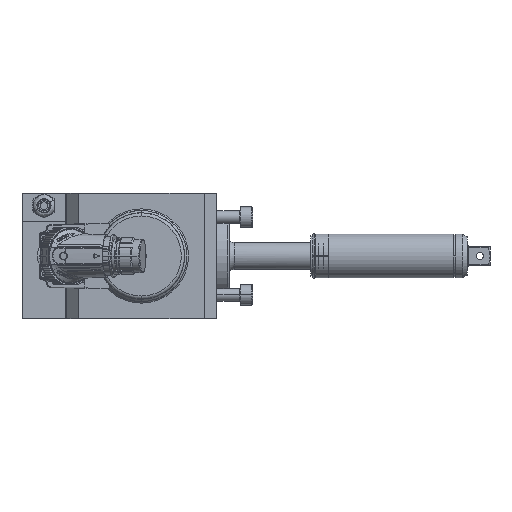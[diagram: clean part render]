
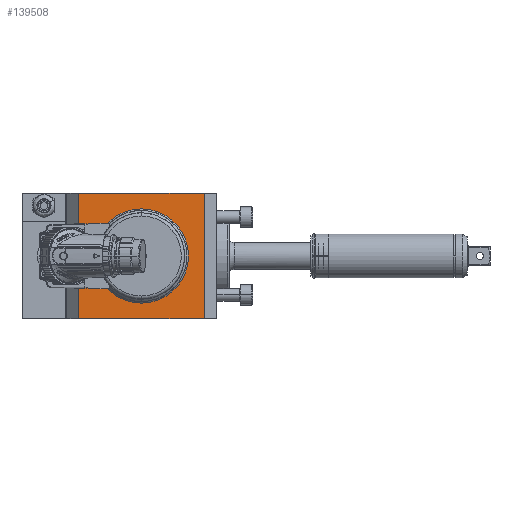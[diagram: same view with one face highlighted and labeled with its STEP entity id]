
A CAD part, left-side view. The second image highlights one B-rep face of the part: STEP entity #139508.
In plain terms, the highlighted planar face has unit normal (-1, 0, 0).
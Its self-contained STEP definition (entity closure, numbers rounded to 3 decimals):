
#2763 = CARTESIAN_POINT ( 'NONE',  ( -73.5, 48., 0. ) ) ;
#2849 = AXIS2_PLACEMENT_3D ( 'NONE', #100180, #50949, #126901 ) ;
#9011 = CARTESIAN_POINT ( 'NONE',  ( -73.5, 88., 40. ) ) ;
#10940 = ORIENTED_EDGE ( 'NONE', *, *, #102774, .F. ) ;
#17818 = CARTESIAN_POINT ( 'NONE',  ( -73.5, 8., 40. ) ) ;
#18180 = EDGE_CURVE ( 'NONE', #144288, #35648, #22976, .T. ) ;
#18308 = CARTESIAN_POINT ( 'NONE',  ( -73.5, 8., 40. ) ) ;
#19458 = DIRECTION ( 'NONE',  ( 0., 0., -1. ) ) ;
#21041 = ORIENTED_EDGE ( 'NONE', *, *, #18180, .F. ) ;
#22976 = LINE ( 'NONE', #126453, #110200 ) ;
#23855 = LINE ( 'NONE', #18308, #25298 ) ;
#25298 = VECTOR ( 'NONE', #120095, 1000. ) ;
#34760 = DIRECTION ( 'NONE',  ( 1., 0., 0. ) ) ;
#35648 = VERTEX_POINT ( 'NONE', #68940 ) ;
#37139 = DIRECTION ( 'NONE',  ( 0., 1., 0. ) ) ;
#38425 = FACE_BOUND ( 'NONE', #161808, .T. ) ;
#40910 = VERTEX_POINT ( 'NONE', #87349 ) ;
#43816 = CIRCLE ( 'NONE', #153104, 30. ) ;
#47451 = ORIENTED_EDGE ( 'NONE', *, *, #131112, .F. ) ;
#48276 = EDGE_CURVE ( 'NONE', #96415, #144288, #106247, .T. ) ;
#50949 = DIRECTION ( 'NONE',  ( -1., 0., 0. ) ) ;
#50972 = VERTEX_POINT ( 'NONE', #90673 ) ;
#51218 = DIRECTION ( 'NONE',  ( 0., 0., 1. ) ) ;
#53069 = EDGE_CURVE ( 'NONE', #68344, #50972, #43816, .T. ) ;
#55883 = CIRCLE ( 'NONE', #66465, 30. ) ;
#57399 = VECTOR ( 'NONE', #19458, 1000. ) ;
#66465 = AXIS2_PLACEMENT_3D ( 'NONE', #144667, #130553, #68683 ) ;
#68344 = VERTEX_POINT ( 'NONE', #145307 ) ;
#68683 = DIRECTION ( 'NONE',  ( 0., 0., 1. ) ) ;
#68940 = CARTESIAN_POINT ( 'NONE',  ( -73.5, 88., -40. ) ) ;
#73569 = EDGE_CURVE ( 'NONE', #50972, #68344, #55883, .T. ) ;
#74904 = LINE ( 'NONE', #9011, #122319 ) ;
#87349 = CARTESIAN_POINT ( 'NONE',  ( -73.5, 88., 40. ) ) ;
#90673 = CARTESIAN_POINT ( 'NONE',  ( -73.5, 48., -30. ) ) ;
#91950 = ORIENTED_EDGE ( 'NONE', *, *, #73569, .T. ) ;
#96415 = VERTEX_POINT ( 'NONE', #136559 ) ;
#100180 = CARTESIAN_POINT ( 'NONE',  ( -73.5, 48., 0. ) ) ;
#102774 = EDGE_CURVE ( 'NONE', #35648, #40910, #74904, .T. ) ;
#106247 = LINE ( 'NONE', #17818, #57399 ) ;
#110082 = ORIENTED_EDGE ( 'NONE', *, *, #53069, .T. ) ;
#110200 = VECTOR ( 'NONE', #37139, 1000. ) ;
#113747 = ORIENTED_EDGE ( 'NONE', *, *, #48276, .F. ) ;
#113752 = CARTESIAN_POINT ( 'NONE',  ( -73.5, 8., -40. ) ) ;
#114087 = DIRECTION ( 'NONE',  ( 0., 0., 1. ) ) ;
#116791 = PLANE ( 'NONE',  #2849 ) ;
#120095 = DIRECTION ( 'NONE',  ( 0., -1., 0. ) ) ;
#121795 = EDGE_LOOP ( 'NONE', ( #113747, #47451, #10940, #21041 ) ) ;
#122319 = VECTOR ( 'NONE', #114087, 1000. ) ;
#122757 = FACE_OUTER_BOUND ( 'NONE', #121795, .T. ) ;
#126453 = CARTESIAN_POINT ( 'NONE',  ( -73.5, 8., -40. ) ) ;
#126901 = DIRECTION ( 'NONE',  ( 0., 0., 1. ) ) ;
#130553 = DIRECTION ( 'NONE',  ( 1., 0., 0. ) ) ;
#131112 = EDGE_CURVE ( 'NONE', #40910, #96415, #23855, .T. ) ;
#136559 = CARTESIAN_POINT ( 'NONE',  ( -73.5, 8., 40. ) ) ;
#139508 = ADVANCED_FACE ( 'NONE', ( #122757, #38425 ), #116791, .T. ) ;
#144288 = VERTEX_POINT ( 'NONE', #113752 ) ;
#144667 = CARTESIAN_POINT ( 'NONE',  ( -73.5, 48., 0. ) ) ;
#145307 = CARTESIAN_POINT ( 'NONE',  ( -73.5, 48., 30. ) ) ;
#153104 = AXIS2_PLACEMENT_3D ( 'NONE', #2763, #34760, #51218 ) ;
#161808 = EDGE_LOOP ( 'NONE', ( #110082, #91950 ) ) ;
